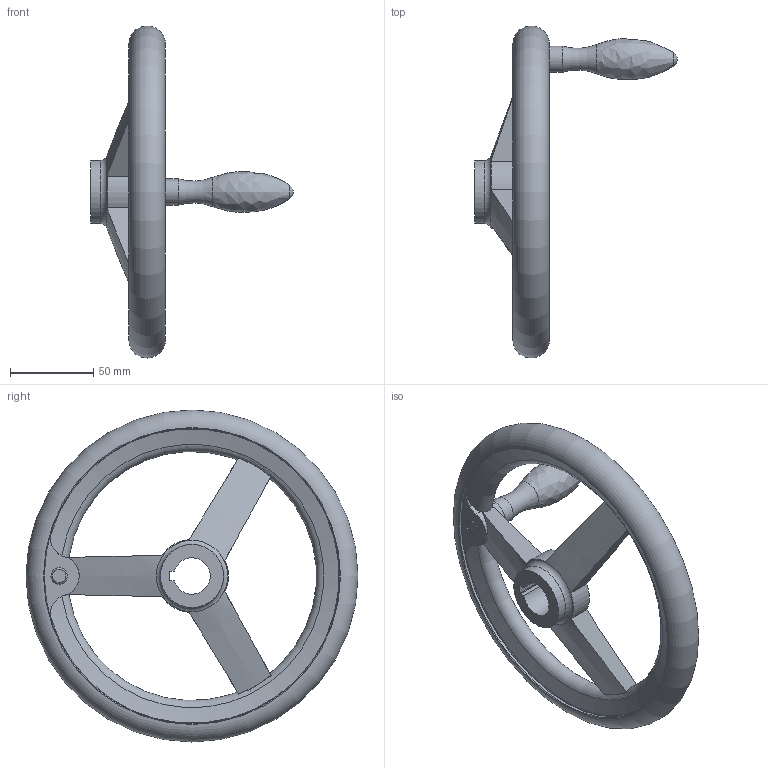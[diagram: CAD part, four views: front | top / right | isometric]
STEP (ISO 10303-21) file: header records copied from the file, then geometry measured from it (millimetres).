
FILE_DESCRIPTION( ( 'STEP AP203' ), '1' );
FILE_NAME( 'C:/Temp/Ganter_Step_05_03_2020/data/1_3/din_950/din_950_k/din_950_k_f/Handwheel DIN 950-AL-200-K22-F.stp', '2020-03-05T10:31:20', ( 'License CC BY-ND 4.0' ), ( 'CADENAS' ), ' ', 'PARTsolutions', ' ' );
FILE_SCHEMA( ( 'CONFIG_CONTROL_DESIGN' ) );
Length unit declared in the file: millimetre
Products named in the file (1): _Handwheel DIN 950-AL-200-K22-F
Bounding box: 122 x 199.99 x 199.99 mm (x, y, z)
Volume: 294420.6 mm3; surface area: 63671.5 mm2
Topology: 1 solids, 1 shells, 54 faces, 154 edges, 99 vertices
Faces by surface type: cylinder 18, torus 15, plane 14, cone 5, sphere 1, bspline 1
Full cylindrical faces by diameter (mm): 10 x1, 15.8 x1, 38 x2, 178 x2
Entity records: 2088 total; most frequent: CARTESIAN_POINT 799, ORIENTED_EDGE 254, DIRECTION 240, EDGE_CURVE 127, AXIS2_PLACEMENT_3D 107, VERTEX_POINT 93, EDGE_LOOP 78, FACE_OUTER_BOUND 69
